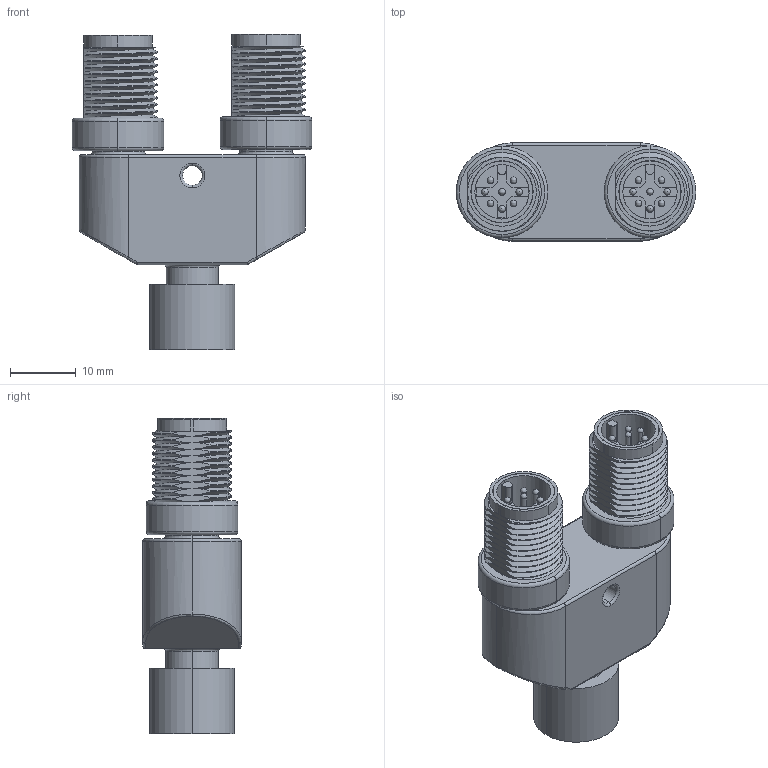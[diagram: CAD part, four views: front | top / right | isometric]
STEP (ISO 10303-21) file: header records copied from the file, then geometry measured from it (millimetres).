
FILE_DESCRIPTION (( 'STEP AP214' ), '1' );
FILE_NAME ('Dock02 new.STEP', '2018-06-28T14:33:20', ( '' ), ( '' ), 'SwSTEP 2.0', 'SolidWorks 2017', '' );
FILE_SCHEMA (( 'AUTOMOTIVE_DESIGN' ));
Length unit declared in the file: millimetre
Products named in the file (1): Dock02 new
Bounding box: 36.6 x 15 x 48.18 mm (x, y, z)
Volume: 12504.9 mm3; surface area: 10456.1 mm2
Topology: 6 solids, 6 shells, 323 faces, 862 edges, 548 vertices
Faces by surface type: cylinder 166, plane 65, bspline 60, torus 22, sphere 10
Entity records: 33596 total; most frequent: CARTESIAN_POINT 22796, ORIENTED_EDGE 1640, DIRECTION 1366, EDGE_CURVE 820, AXIS2_PLACEMENT_3D 544, VERTEX_POINT 536, EDGE_LOOP 358, UNCERTAINTY_MEASURE_WITH_UNIT 331
